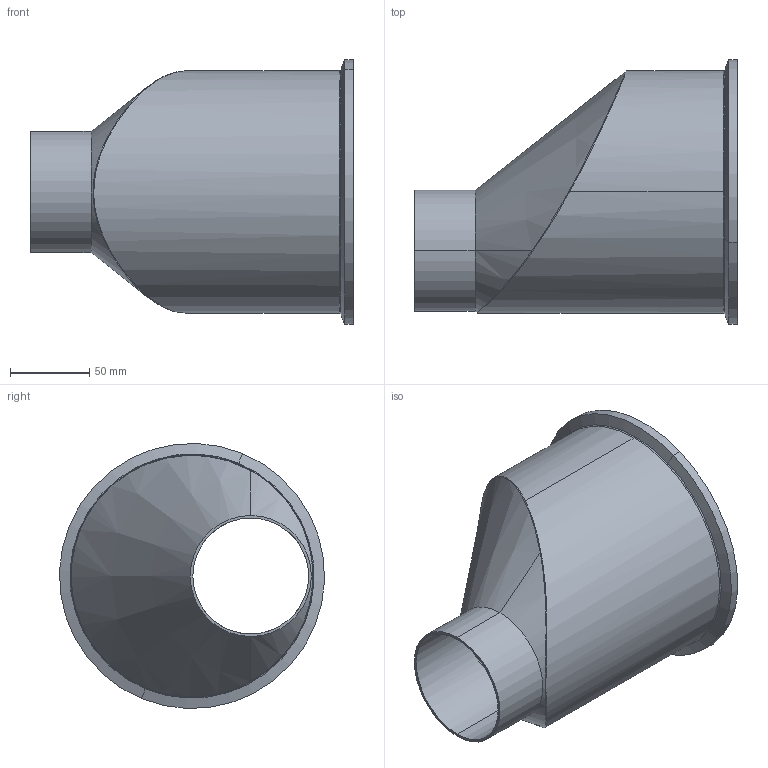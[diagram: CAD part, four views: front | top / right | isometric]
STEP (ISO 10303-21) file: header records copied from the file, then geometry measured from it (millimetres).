
FILE_DESCRIPTION (( 'STEP AP214' ), '1' );
FILE_NAME ('TE32SCW6L6.0x3.0-...STEP', '2016-06-02T08:38:00', ( 'eran' ), ( '' ), 'SwSTEP 2.0', 'SolidWorks 2016', '' );
FILE_SCHEMA (( 'AUTOMOTIVE_DESIGN' ));
Length unit declared in the file: millimetre
Products named in the file (1): TE32SCW6L6.0x3.0-..
Bounding box: 203.25 x 166.73 x 166.73 mm (x, y, z)
Volume: 850789.5 mm3; surface area: 161785.9 mm2
Topology: 1 solids, 1 shells, 47 faces, 107 edges, 61 vertices
Faces by surface type: cylinder 15, cone 13, torus 12, bspline 4, plane 3
Entity records: 3022 total; most frequent: CARTESIAN_POINT 1449, DIRECTION 223, ORIENTED_EDGE 210, EDGE_CURVE 105, AXIS2_PLACEMENT_3D 99, VERTEX_POINT 61, CIRCLE 55, UNCERTAINTY_MEASURE_WITH_UNIT 50
